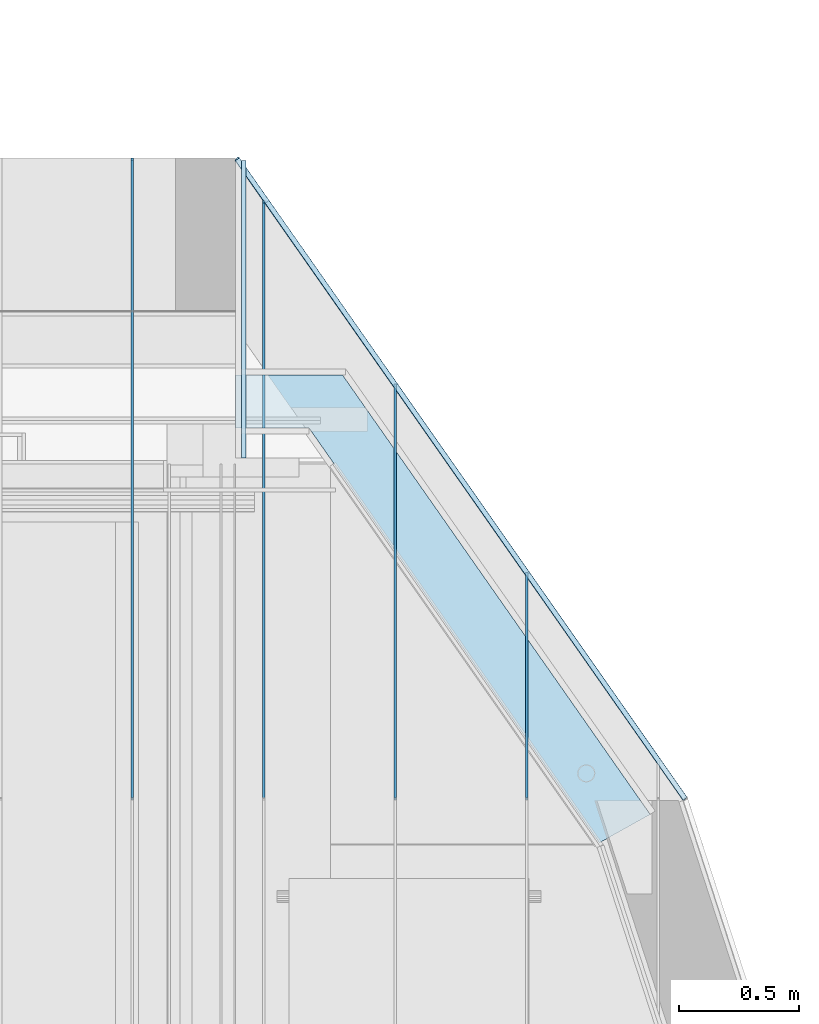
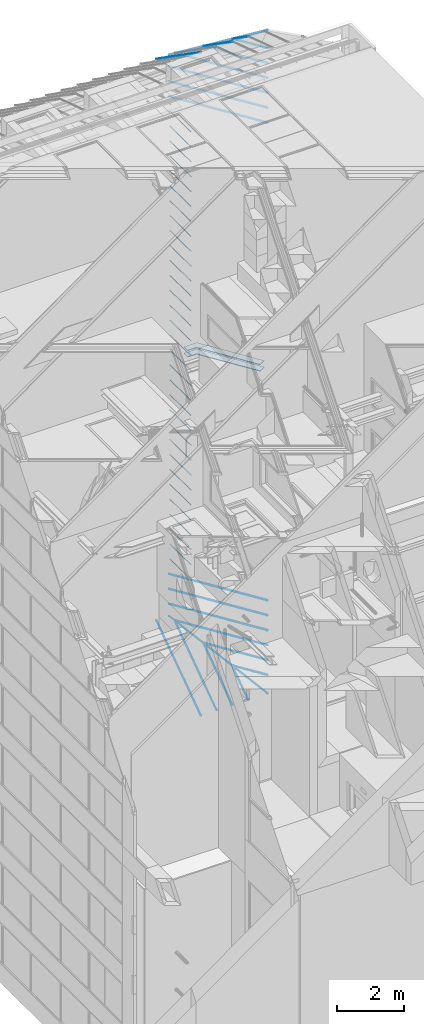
# One storey, part 298 of 583: 54 slabs.
"""IFC2X3 building model written with IfcOpenShell, lengths in metres."""

import ifcopenshell
import ifcopenshell.guid

model = None  # the IFC model being written
_history = None  # IfcOwnerHistory: only IFC2X3 demands one
_inside = {}  # id of a spatial element -> (the spatial element, [elements in it])
_under = {}  # id of a project, library or spatial element -> (it, [spatial elements below it])
_declared = {}  # id of a project -> (the project, [libraries it declares])
_typed = {}  # id of a type object -> (the type object, [elements of that type])
_made_of = {}  # id of a material, layer set ... -> (it, [elements and type objects made of it])


def new_model(schema):
    """Start an empty IFC model of exactly this schema.

    Asked for "IFC4X3", IfcOpenShell would pick the latest addendum, in which some entities
    have other attributes; the version numbers below select the first issue.
    IFC2X3 requires an IfcOwnerHistory on every rooted entity: one is made here for all.
    """
    global model, _history
    if schema == "IFC4X3":
        model = ifcopenshell.file(schema_version=(4, 3, 0, 0))
    else:
        model = ifcopenshell.file(schema=schema)
    _inside.clear()
    _under.clear()
    _declared.clear()
    _typed.clear()
    _made_of.clear()
    _history = None
    if model.schema == "IFC2X3":
        org = make("IfcOrganization", Name="unknown")
        user = make(
            "IfcPersonAndOrganization",
            ThePerson=make("IfcPerson", FamilyName="unknown"),
            TheOrganization=org,
        )
        app = make(
            "IfcApplication",
            ApplicationDeveloper=org,
            Version="unknown",
            ApplicationFullName="unknown",
            ApplicationIdentifier="unknown",
        )
        _history = make(
            "IfcOwnerHistory",
            OwningUser=user,
            OwningApplication=app,
            ChangeAction="ADDED",
            CreationDate=0,
        )
    return model


def make(cls, **values):
    """One entity of the class cls with the attributes given. An attribute that is None is left unset."""
    return model.create_entity(
        cls, **{name: value for name, value in values.items() if value is not None}
    )


def entity(cls, *values):
    """Any entity or typed value of the class cls, its attributes in the order of the schema. None: left unset."""
    e = model.create_entity(cls)
    for i, value in enumerate(values):
        if value is not None:
            e[i] = value
    return e


def rooted(cls, **values):
    """An entity with a GlobalId (a new one), such as an element, a storey or a relation."""
    return make(cls, GlobalId=ifcopenshell.guid.new(), OwnerHistory=_history, **values)


def si_unit(unit_type, name, prefix=None):
    """IfcSIUnit, for example si_unit("LENGTHUNIT", "METRE", prefix="MILLI")."""
    return make("IfcSIUnit", UnitType=unit_type, Prefix=prefix, Name=name)


def converted_unit(unit_type, name, factor, base, dimensions=None, offset=None):
    """IfcConversionBasedUnit, such as the inch: factor (a typed value) times the base unit."""
    return make(
        "IfcConversionBasedUnit"
        if offset is None
        else "IfcConversionBasedUnitWithOffset",
        ConversionOffset=offset,
        Dimensions=None
        if dimensions is None
        else entity("IfcDimensionalExponents", *dimensions),
        UnitType=unit_type,
        Name=name,
        ConversionFactor=make(
            "IfcMeasureWithUnit", ValueComponent=factor, UnitComponent=base
        ),
    )


def derived_unit(unit_type, elements):
    """IfcDerivedUnit: a product of units, each with its exponent."""
    return make(
        "IfcDerivedUnit",
        Elements=[
            make("IfcDerivedUnitElement", Unit=unit, Exponent=power)
            for unit, power in elements
        ],
        UnitType=unit_type,
    )


def money_unit(currency):
    """IfcMonetaryUnit."""
    return make("IfcMonetaryUnit", Currency=currency)


def assignment(units):
    """IfcUnitAssignment: the units of a project."""
    return None if units is None else make("IfcUnitAssignment", Units=units)


def point(xyz):
    """IfcCartesianPoint."""
    return None if xyz is None else make("IfcCartesianPoint", Coordinates=xyz)


def direction(xyz):
    """IfcDirection."""
    return None if xyz is None else make("IfcDirection", DirectionRatios=xyz)


def frame(location, z_axis=None, x_axis=None):
    """IfcAxis2Placement3D, a coordinate frame: its origin and axes. An axis left out is left unset."""
    return make(
        "IfcAxis2Placement3D",
        Location=point(location),
        Axis=direction(z_axis),
        RefDirection=direction(x_axis),
    )


def origin_with_axes():
    """The frame at (0, 0, 0) with the z axis (0, 0, 1) and the x axis (1, 0, 0) written out."""
    return frame((0.0, 0.0, 0.0), z_axis=(0.0, 0.0, 1.0), x_axis=(1.0, 0.0, 0.0))


def place(relative_to, where):
    """IfcLocalPlacement: puts the frame where relative to a parent placement (None: the world)."""
    return make(
        "IfcLocalPlacement", PlacementRelTo=relative_to, RelativePlacement=where
    )


def context(
    kind, dimensions, precision=None, world=None, true_north=None, identifier=None
):
    """IfcGeometricRepresentationContext, for example the 3D "Model" context."""
    return make(
        "IfcGeometricRepresentationContext",
        ContextIdentifier=identifier,
        ContextType=kind,
        CoordinateSpaceDimension=dimensions,
        Precision=precision,
        WorldCoordinateSystem=world,
        TrueNorth=true_north,
    )


def subcontext(parent, identifier, kind, view, scale=None):
    """IfcGeometricRepresentationSubContext, for example "Body" below "Model"."""
    return make(
        "IfcGeometricRepresentationSubContext",
        ContextIdentifier=identifier,
        ContextType=kind,
        ParentContext=parent,
        TargetScale=scale,
        TargetView=view,
    )


def project(units=None, contexts=None):
    """IfcProject with its units and contexts."""
    return rooted(
        "IfcProject",
        Name="project",
        RepresentationContexts=contexts,
        UnitsInContext=assignment(units),
    )


def spatial(cls, under=None, at=None, **own):
    """A site, building, storey or space (cls), placed at a placement, below another one or the project."""
    s = rooted(cls, ObjectPlacement=at, **own)
    if under is not None:
        _under.setdefault(under.id(), (under, []))[1].append(s)
    return s


def faces_of(points, faces, orient=None, outer=None):
    """IfcFace entities. A face is a list of loops; a loop is a list of indices into points, from 0.

    orient and outer hold one flag for each loop. By default every Orientation is true, the
    first loop of a face is its IfcFaceOuterBound and the others are IfcFaceBound.
    """
    made = []
    for i, loops in enumerate(faces):
        bounds = []
        for j, loop in enumerate(loops):
            is_outer = j == 0 if outer is None else outer[i][j]
            bounds.append(
                make(
                    "IfcFaceOuterBound" if is_outer else "IfcFaceBound",
                    Bound=make("IfcPolyLoop", Polygon=[points[k] for k in loop]),
                    Orientation=True if orient is None else orient[i][j],
                )
            )
        made.append(make("IfcFace", Bounds=bounds))
    return made


def faceted_brep(points, faces, orient=None, outer=None, voids=None):
    """IfcFacetedBrep: a solid bounded by flat faces; with voids (closed shells), ...WithVoids."""
    shared = [point(p) for p in points]
    hull = make("IfcClosedShell", CfsFaces=faces_of(shared, faces, orient, outer))
    if voids is None:
        return make("IfcFacetedBrep", Outer=hull)
    return make(
        "IfcFacetedBrepWithVoids",
        Outer=hull,
        Voids=[
            make(cls, CfsFaces=faces_of(shared, fs, o, b)) for cls, fs, o, b in voids
        ],
    )


def shape(context_of_items, identifier, shape_type, items):
    """IfcShapeRepresentation: the items that make up one representation, for example the "Body"."""
    return make(
        "IfcShapeRepresentation",
        ContextOfItems=context_of_items,
        RepresentationIdentifier=identifier,
        RepresentationType=shape_type,
        Items=items,
    )


def material(Name=None, Category=None):
    """IfcMaterial."""
    return make("IfcMaterial", Name=Name, Category=Category)


def made_of(thing, what):
    """Note that an element or type object is made of a material, layer set ...; save() writes the relation."""
    if what is not None:
        _made_of.setdefault(what.id(), (what, []))[1].append(thing)
    return thing


def type_object(cls, material=None, **own):
    """A type object (cls), such as IfcWallType, which elements share."""
    return made_of(rooted(cls, **own), material)


def element(
    cls,
    number,
    at=None,
    inside=None,
    cuts=None,
    type_object=None,
    material=None,
    context=None,
    identifier="Body",
    shape_type=None,
    held_by="IfcProductDefinitionShape",
    body=None,
    shapes=None,
    **own,
):
    """One element of the class cls, such as IfcWall. Its Tag is "e" and its number.

    at: its placement. inside: the storey or other place that contains it. cuts: it is an
    opening in that element (IfcRelVoidsElement). A single representation is given by context,
    identifier, shape_type and body (its items); several are given by shapes. held_by: the class
    of the entity that holds the representations. save() writes the other relations.
    """
    e = rooted(cls, Tag="e%d" % number, ObjectPlacement=at, **own)
    if body is not None:
        shapes = [shape(context, identifier, shape_type, body)]
    if shapes is not None:
        e.Representation = make(held_by, Representations=shapes)
    if inside is not None:
        _inside.setdefault(inside.id(), (inside, []))[1].append(e)
    if cuts is not None:
        rooted(
            "IfcRelVoidsElement", RelatingBuildingElement=cuts, RelatedOpeningElement=e
        )
    if type_object is not None:
        _typed.setdefault(type_object.id(), (type_object, []))[1].append(e)
    return made_of(e, material)


def aggregate(whole, parts):
    """IfcRelAggregates: a whole, such as a stair, and the parts it consists of."""
    return rooted("IfcRelAggregates", RelatingObject=whole, RelatedObjects=parts)


def save(model, path):
    """Write the relations noted so far, then the file.

    IfcRelAggregates (storeys below a building ...), IfcRelContainedInSpatialStructure (elements
    in a storey), IfcRelDefinesByType, IfcRelAssociatesMaterial and IfcRelDeclares: one each for
    every whole, place, type object, material and project.
    """
    for whole, parts in _under.values():
        aggregate(whole, parts)
    for where, things in _inside.values():
        rooted(
            "IfcRelContainedInSpatialStructure",
            RelatedElements=things,
            RelatingStructure=where,
        )
    for kind, things in _typed.values():
        rooted("IfcRelDefinesByType", RelatedObjects=things, RelatingType=kind)
    for what, things in _made_of.values():
        rooted("IfcRelAssociatesMaterial", RelatedObjects=things, RelatingMaterial=what)
    for by, libraries in _declared.values():
        rooted("IfcRelDeclares", RelatingContext=by, RelatedDefinitions=libraries)
    model.write(path)


model = new_model("IFC2X3")

# Units and contexts
model_context = context("Model", 3, precision=1e-05, world=origin_with_axes(), true_north=direction((0.0, 1.0)))
body_context = subcontext(model_context, "Body", "Model", "MODEL_VIEW", scale=1.0)
ifc_project = project(units=[si_unit("LENGTHUNIT", "METRE"), si_unit("AREAUNIT", "SQUARE_METRE"), si_unit("VOLUMEUNIT", "CUBIC_METRE"), si_unit("ABSORBEDDOSEUNIT", "GRAY"), si_unit("AMOUNTOFSUBSTANCEUNIT", "MOLE"), si_unit("DOSEEQUIVALENTUNIT", "SIEVERT"), si_unit("ELECTRICCAPACITANCEUNIT", "FARAD"), si_unit("ELECTRICCHARGEUNIT", "COULOMB"), si_unit("ELECTRICCONDUCTANCEUNIT", "SIEMENS"), si_unit("ELECTRICCURRENTUNIT", "AMPERE"), si_unit("ELECTRICRESISTANCEUNIT", "OHM"), si_unit("ELECTRICVOLTAGEUNIT", "VOLT"), si_unit("ENERGYUNIT", "JOULE"), si_unit("FORCEUNIT", "NEWTON"), si_unit("FREQUENCYUNIT", "HERTZ"), si_unit("ILLUMINANCEUNIT", "LUX"), si_unit("INDUCTANCEUNIT", "HENRY"), si_unit("LUMINOUSFLUXUNIT", "LUMEN"), si_unit("LUMINOUSINTENSITYUNIT", "CANDELA"), si_unit("MAGNETICFLUXDENSITYUNIT", "TESLA"), si_unit("MAGNETICFLUXUNIT", "WEBER"), si_unit("MASSUNIT", "GRAM"), converted_unit("PLANEANGLEUNIT", "degree", entity("IfcReal", 0.0174532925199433), si_unit("PLANEANGLEUNIT", "RADIAN"), dimensions=[0, 0, 0, 0, 0, 0, 0]), si_unit("POWERUNIT", "WATT"), si_unit("PRESSUREUNIT", "PASCAL"), si_unit("RADIOACTIVITYUNIT", "BECQUEREL"), si_unit("SOLIDANGLEUNIT", "STERADIAN"), si_unit("THERMODYNAMICTEMPERATUREUNIT", "KELVIN"), si_unit("TIMEUNIT", "SECOND"), derived_unit("ACCELERATIONUNIT", [(si_unit("LENGTHUNIT", "METRE"), 1), (si_unit("TIMEUNIT", "SECOND"), -2)]), derived_unit("ANGULARVELOCITYUNIT", [(converted_unit("PLANEANGLEUNIT", "degree", entity("IfcReal", 0.0174532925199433), si_unit("PLANEANGLEUNIT", "RADIAN"), dimensions=[0, 0, 0, 0, 0, 0, 0]), 1), (si_unit("TIMEUNIT", "SECOND"), -1)]), derived_unit("CURVATUREUNIT", [(converted_unit("PLANEANGLEUNIT", "degree", entity("IfcReal", 0.0174532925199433), si_unit("PLANEANGLEUNIT", "RADIAN"), dimensions=[0, 0, 0, 0, 0, 0, 0]), 1), (si_unit("LENGTHUNIT", "METRE"), -1)]), derived_unit("DYNAMICVISCOSITYUNIT", [(si_unit("PRESSUREUNIT", "PASCAL"), 1), (si_unit("TIMEUNIT", "SECOND"), 1)]), derived_unit("HEATFLUXDENSITYUNIT", [(si_unit("POWERUNIT", "WATT"), 1), (si_unit("LENGTHUNIT", "METRE"), -2)]), derived_unit("HEATINGVALUEUNIT", [(si_unit("ENERGYUNIT", "JOULE"), 1), (si_unit("MASSUNIT", "GRAM"), -1)]), derived_unit("INTEGERCOUNTRATEUNIT", [(si_unit("TIMEUNIT", "SECOND"), -1)]), derived_unit("IONCONCENTRATIONUNIT", [(si_unit("MASSUNIT", "GRAM"), 1), (si_unit("VOLUMEUNIT", "CUBIC_METRE"), -1)]), derived_unit("ISOTHERMALMOISTURECAPACITYUNIT", [(si_unit("VOLUMEUNIT", "CUBIC_METRE"), 1), (si_unit("MASSUNIT", "GRAM"), -1)]), derived_unit("KINEMATICVISCOSITYUNIT", [(si_unit("AREAUNIT", "SQUARE_METRE"), 1), (si_unit("TIMEUNIT", "SECOND"), -1)]), derived_unit("LINEARFORCEUNIT", [(si_unit("FORCEUNIT", "NEWTON"), 1), (si_unit("LENGTHUNIT", "METRE"), -1)]), derived_unit("LINEARMOMENTUNIT", [(si_unit("FORCEUNIT", "NEWTON"), 1), (si_unit("LENGTHUNIT", "METRE"), -1)]), derived_unit("LINEARSTIFFNESSUNIT", [(si_unit("FORCEUNIT", "NEWTON"), 1), (si_unit("LENGTHUNIT", "METRE"), -1)]), derived_unit("LINEARVELOCITYUNIT", [(si_unit("LENGTHUNIT", "METRE"), 1), (si_unit("TIMEUNIT", "SECOND"), -1)]), derived_unit("LUMINOUSINTENSITYDISTRIBUTIONUNIT", [(si_unit("LUMINOUSINTENSITYUNIT", "CANDELA"), 1), (si_unit("LUMINOUSFLUXUNIT", "LUMEN"), -1)]), derived_unit("MASSDENSITYUNIT", [(si_unit("MASSUNIT", "GRAM"), 1), (si_unit("VOLUMEUNIT", "CUBIC_METRE"), -1)]), derived_unit("MASSFLOWRATEUNIT", [(si_unit("MASSUNIT", "GRAM"), 1), (si_unit("TIMEUNIT", "SECOND"), -1)]), derived_unit("MASSPERLENGTHUNIT", [(si_unit("MASSUNIT", "GRAM"), 1), (si_unit("LENGTHUNIT", "METRE"), -1)]), derived_unit("MODULUSOFELASTICITYUNIT", [(si_unit("FORCEUNIT", "NEWTON"), 1), (si_unit("AREAUNIT", "SQUARE_METRE"), -1)]), derived_unit("MODULUSOFLINEARSUBGRADEREACTIONUNIT", [(si_unit("FORCEUNIT", "NEWTON"), 1), (si_unit("LENGTHUNIT", "METRE"), -2)]), derived_unit("MODULUSOFROTATIONALSUBGRADEREACTIONUNIT", [(si_unit("FORCEUNIT", "NEWTON"), 1), (si_unit("LENGTHUNIT", "METRE"), 1)]), derived_unit("MODULUSOFSUBGRADEREACTIONUNIT", [(si_unit("FORCEUNIT", "NEWTON"), 1), (si_unit("VOLUMEUNIT", "CUBIC_METRE"), -1)]), derived_unit("MOISTUREDIFFUSIVITYUNIT", [(si_unit("VOLUMEUNIT", "CUBIC_METRE"), 1), (si_unit("TIMEUNIT", "SECOND"), -1)]), derived_unit("MOLECULARWEIGHTUNIT", [(si_unit("MASSUNIT", "GRAM"), 1), (si_unit("AMOUNTOFSUBSTANCEUNIT", "MOLE"), -1)]), derived_unit("PLANARFORCEUNIT", [(si_unit("FORCEUNIT", "NEWTON"), 1), (si_unit("LENGTHUNIT", "METRE"), -2)]), derived_unit("ROTATIONALFREQUENCYUNIT", [(si_unit("TIMEUNIT", "SECOND"), -1)]), derived_unit("ROTATIONALMASSUNIT", [(si_unit("MASSUNIT", "GRAM"), 1), (si_unit("LENGTHUNIT", "METRE"), 2)]), derived_unit("ROTATIONALSTIFFNESSUNIT", [(si_unit("FORCEUNIT", "NEWTON"), 1), (si_unit("LENGTHUNIT", "METRE"), 1), (converted_unit("PLANEANGLEUNIT", "degree", entity("IfcReal", 0.0174532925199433), si_unit("PLANEANGLEUNIT", "RADIAN"), dimensions=[0, 0, 0, 0, 0, 0, 0]), -1)]), derived_unit("SECTIONAREAINTEGRALUNIT", [(si_unit("LENGTHUNIT", "METRE"), 5)]), derived_unit("SECTIONMODULUSUNIT", [(si_unit("LENGTHUNIT", "METRE"), 3)]), derived_unit("SHEARMODULUSUNIT", [(si_unit("FORCEUNIT", "NEWTON"), 1), (si_unit("AREAUNIT", "SQUARE_METRE"), -1)]), derived_unit("SOUNDPOWERUNIT", [(si_unit("ENERGYUNIT", "JOULE"), 1), (si_unit("TIMEUNIT", "SECOND"), -1)]), derived_unit("SPECIFICHEATCAPACITYUNIT", [(si_unit("FORCEUNIT", "NEWTON"), 1), (si_unit("MASSUNIT", "GRAM"), -1), (si_unit("THERMODYNAMICTEMPERATUREUNIT", "KELVIN"), -1)]), derived_unit("TEMPERATUREGRADIENTUNIT", [(si_unit("THERMODYNAMICTEMPERATUREUNIT", "KELVIN"), 1), (si_unit("LENGTHUNIT", "METRE"), -1)]), derived_unit("THERMALADMITTANCEUNIT", [(si_unit("POWERUNIT", "WATT"), 1), (si_unit("AREAUNIT", "SQUARE_METRE"), -1), (si_unit("THERMODYNAMICTEMPERATUREUNIT", "KELVIN"), -1)]), derived_unit("THERMALCONDUCTANCEUNIT", [(si_unit("POWERUNIT", "WATT"), 1), (si_unit("LENGTHUNIT", "METRE"), -1), (si_unit("THERMODYNAMICTEMPERATUREUNIT", "KELVIN"), -1)]), derived_unit("THERMALEXPANSIONCOEFFICIENTUNIT", [(si_unit("THERMODYNAMICTEMPERATUREUNIT", "KELVIN"), -1)]), derived_unit("THERMALRESISTANCEUNIT", [(si_unit("AREAUNIT", "SQUARE_METRE"), 1), (si_unit("POWERUNIT", "WATT"), -1)]), derived_unit("THERMALTRANSMITTANCEUNIT", [(si_unit("POWERUNIT", "WATT"), 1), (si_unit("AREAUNIT", "SQUARE_METRE"), -1), (si_unit("THERMODYNAMICTEMPERATUREUNIT", "KELVIN"), -1)]), derived_unit("TORQUEUNIT", [(si_unit("FORCEUNIT", "NEWTON"), 1), (si_unit("LENGTHUNIT", "METRE"), 1)]), derived_unit("VAPORPERMEABILITYUNIT", [(si_unit("MASSUNIT", "GRAM"), 1), (si_unit("TIMEUNIT", "SECOND"), -1)]), derived_unit("VOLUMETRICFLOWRATEUNIT", [(si_unit("VOLUMEUNIT", "CUBIC_METRE"), 1), (si_unit("TIMEUNIT", "SECOND"), -1)]), derived_unit("WARPINGCONSTANTUNIT", [(si_unit("LENGTHUNIT", "METRE"), 6)]), derived_unit("WARPINGMOMENTUNIT", [(si_unit("FORCEUNIT", "NEWTON"), 1), (si_unit("LENGTHUNIT", "METRE"), 2)]), money_unit("GBP")], contexts=[model_context])

# Site, building, storey
site_placement = place(None, origin_with_axes())
site = spatial("IfcSite", under=ifc_project, at=site_placement, Name="Site", CompositionType="ELEMENT")
building_placement = place(site_placement, origin_with_axes())
building = spatial("IfcBuilding", under=site, at=building_placement, Name="Building01", CompositionType="ELEMENT")
storey_placement = place(building_placement, frame((0.0, 0.0, 20.78), z_axis=(0.0, 0.0, 1.0), x_axis=(1.0, 0.0, 0.0)))
storey = spatial("IfcBuildingStorey", under=building, at=storey_placement, Name="RL", CompositionType="ELEMENT", Elevation=20.78)

# Slabs
ifc_material = material(Name="A_BSUK_Roofs")
slab_type = type_object("IfcSlabType", Name="A-FloorsSlabs A_BSUK_Slabs", PredefinedType="FLOOR")
placement = place(storey_placement, frame((0.0, 0.0, -20.78), z_axis=(0.0, 0.0, 1.0), x_axis=(1.0, 0.0, 0.0)))
element("IfcSlab", 1, at=placement, inside=storey, type_object=slab_type, material=ifc_material, Name="A-FloorsSlabs A_BSUK_Slabs", ObjectType="CompoundSlabLeaf", context=body_context, shape_type="Brep", body=[
    faceted_brep([(11.699939, 20.5522, 13.60455), (11.699939, 20.5522, 13.62955), (12.146285, 20.5522, 13.62955), (12.146285, 20.5522, 13.60455), (11.699939, 20.33, 13.60455), (11.699939, 20.33, 13.62955), (12.007176, 20.33, 13.60455), (12.007176, 20.33, 13.62955), (13.216328, 18.602594, 13.60455), (13.216328, 18.602594, 13.62955), (13.428465, 18.721057, 13.60455), (13.428465, 18.721057, 13.62955)], [[[0, 1, 2, 3]], [[4, 5, 1, 0]], [[6, 7, 5, 4]], [[8, 9, 7, 6]], [[10, 11, 9, 8]], [[3, 2, 11, 10]], [[1, 5, 7, 9, 11, 2]], [[3, 10, 8, 6, 4, 0]]]),
])
element("IfcSlab", 2, at=placement, inside=storey, type_object=slab_type, material=ifc_material, Name="A-FloorsSlabs A_BSUK_Slabs", ObjectType="CompoundSlabLeaf", context=body_context, shape_type="Brep", body=[
    faceted_brep([(12.146285, 20.5522, 13.39545), (12.146285, 20.5522, 13.37045), (11.699939, 20.5522, 13.37045), (11.699939, 20.5522, 13.39545), (13.428465, 18.721057, 13.39545), (13.428465, 18.721057, 13.37045), (13.216328, 18.602594, 13.39545), (13.216328, 18.602594, 13.37045), (12.007176, 20.33, 13.39545), (12.007176, 20.33, 13.37045), (11.699939, 20.33, 13.39545), (11.699939, 20.33, 13.37045)], [[[0, 1, 2, 3]], [[4, 5, 1, 0]], [[6, 7, 5, 4]], [[8, 9, 7, 6]], [[10, 11, 9, 8]], [[3, 2, 11, 10]], [[1, 5, 7, 9, 11, 2]], [[3, 10, 8, 6, 4, 0]]]),
])
for number, where, z_axis, x_axis, name in (
    (3, (11.725061, 20.205, -9.464976), (0.0, 1.0, 0.0), (0.0, 0.0, -1.0), "A-FloorsSlabs A_BSUK_Slabs"),
    (4, (11.725061, 20.205, -10.012476), (0.0, 1.0, 0.0), (0.0, 0.0, -1.0), "A-FloorsSlabs A_BSUK_Slabs"),
    (5, (11.725061, 20.205, -10.559976), (0.0, 1.0, 0.0), (0.0, 0.0, -1.0), "A-FloorsSlabs A_BSUK_Slabs"),
    (6, (11.725061, 20.205, -11.107476), (0.0, 1.0, 0.0), (0.0, 0.0, -1.0), "A-FloorsSlabs A_BSUK_Slabs"),
    (7, (11.725061, 20.205, -11.654976), (0.0, 1.0, 0.0), (0.0, 0.0, -1.0), "A-FloorsSlabs A_BSUK_Slabs"),
    (8, (11.725061, 20.205, -12.202476), (0.0, 1.0, 0.0), (0.0, 0.0, -1.0), "A-FloorsSlabs A_BSUK_Slabs"),
    (9, (11.725061, 20.205, -12.749976), (0.0, 1.0, 0.0), (0.0, 0.0, -1.0), "A-FloorsSlabs A_BSUK_Slabs"),
    (10, (11.725061, 20.205, -13.297476), (0.0, 1.0, 0.0), (0.0, 0.0, -1.0), "A-FloorsSlabs A_BSUK_Slabs"),
    (11, (11.725061, 20.205, -13.844976), (0.0, 1.0, 0.0), (0.0, 0.0, -1.0), "A-FloorsSlabs A_BSUK_Slabs"),
    (12, (11.725061, 20.205, -14.392476), (0.0, 1.0, 0.0), (0.0, 0.0, -1.0), "A-FloorsSlabs A_BSUK_Slabs"),
    (13, (11.725061, 20.205, -14.939976), (0.0, 1.0, 0.0), (0.0, 0.0, -1.0), "A-FloorsSlabs A_BSUK_Slabs"),
    (14, (11.725061, 20.205, -15.487476), (0.0, 1.0, 0.0), (0.0, 0.0, -1.0), "A-FloorsSlabs A_BSUK_Slabs"),
):
    element("IfcSlab", number, at=place(storey_placement, frame(where, z_axis=z_axis, x_axis=x_axis)), inside=storey, type_object=slab_type, material=ifc_material, Name=name, ObjectType="A-FloorsSlabs A_BSUK_Slabs", context=body_context, shape_type="Brep", body=[
        faceted_brep([(0.0, 0.0, 0.0), (0.0, -0.02, 0.0), (0.0, -0.02, 1.239928), (0.0, 0.0, 1.239928), (0.01, 0.0, 0.0), (0.01, -0.02, 0.0), (0.01, 0.0, 1.239928), (0.01, -0.02, 1.239928)], [[[0, 1, 2, 3]], [[4, 5, 1, 0]], [[6, 7, 5, 4]], [[3, 2, 7, 6]], [[1, 5, 7, 2]], [[3, 6, 4, 0]]]),
    ])
for number, where, z_axis, x_axis, name in (
    (15, (13.56574, 18.780461, -16.034976), (0.0, 1.0, 0.0), (0.0, 0.0, -1.0), "A-FloorsSlabs A_BSUK_Slabs"),
    (16, (13.56574, 18.780461, -16.582476), (0.0, 1.0, 0.0), (0.0, 0.0, -1.0), "A-FloorsSlabs A_BSUK_Slabs"),
):
    element("IfcSlab", number, at=place(storey_placement, frame(where, z_axis=z_axis, x_axis=x_axis)), inside=storey, type_object=slab_type, material=ifc_material, Name=name, ObjectType="A-FloorsSlabs A_BSUK_Slabs", context=body_context, shape_type="Brep", body=[
        faceted_brep([(0.0, 0.0, 0.0), (0.0, -0.016383, 0.011472), (0.0, 1.849297, 2.675938), (0.0, 1.86568, 2.664467), (0.01, 0.0, 0.0), (0.01, -0.016383, 0.011472), (0.01, 1.86568, 2.664467), (0.01, 1.849297, 2.675938)], [[[0, 1, 2, 3]], [[4, 5, 1, 0]], [[6, 7, 5, 4]], [[3, 2, 7, 6]], [[1, 5, 7, 2]], [[3, 6, 4, 0]]]),
    ])
for number, where, z_axis, x_axis, name in (
    (17, (11.725061, 20.205, -6.737476), (0.0, 1.0, 0.0), (0.0, 0.0, -1.0), "A-FloorsSlabs A_BSUK_Slabs"),
    (18, (11.725061, 20.205, -6.189976), (0.0, 1.0, 0.0), (0.0, 0.0, -1.0), "A-FloorsSlabs A_BSUK_Slabs"),
    (19, (11.725061, 20.205, -5.642476), (0.0, 1.0, 0.0), (0.0, 0.0, -1.0), "A-FloorsSlabs A_BSUK_Slabs"),
    (20, (11.725061, 20.205, -5.094976), (0.0, 1.0, 0.0), (0.0, 0.0, -1.0), "A-FloorsSlabs A_BSUK_Slabs"),
    (21, (11.725061, 20.205, -4.547476), (0.0, 1.0, 0.0), (0.0, 0.0, -1.0), "A-FloorsSlabs A_BSUK_Slabs"),
    (22, (11.725061, 20.205, -3.999976), (0.0, 1.0, 0.0), (0.0, 0.0, -1.0), "A-FloorsSlabs A_BSUK_Slabs"),
    (23, (11.725061, 20.205, -3.452476), (0.0, 1.0, 0.0), (0.0, 0.0, -1.0), "A-FloorsSlabs A_BSUK_Slabs"),
    (24, (11.725061, 20.205, -2.904976), (0.0, 1.0, 0.0), (0.0, 0.0, -1.0), "A-FloorsSlabs A_BSUK_Slabs"),
    (25, (11.725061, 20.205, -2.357476), (0.0, 1.0, 0.0), (0.0, 0.0, -1.0), "A-FloorsSlabs A_BSUK_Slabs"),
    (26, (11.725061, 20.205, -1.809976), (0.0, 1.0, 0.0), (0.0, 0.0, -1.0), "A-FloorsSlabs A_BSUK_Slabs"),
    (27, (11.725061, 20.205, -1.262476), (0.0, 1.0, 0.0), (0.0, 0.0, -1.0), "A-FloorsSlabs A_BSUK_Slabs"),
    (28, (11.725061, 20.205, -0.714976), (0.0, 1.0, 0.0), (0.0, 0.0, -1.0), "A-FloorsSlabs A_BSUK_Slabs"),
    (29, (11.725061, 20.205, -0.167476), (0.0, 1.0, 0.0), (0.0, 0.0, -1.0), "A-FloorsSlabs A_BSUK_Slabs"),
    (30, (11.725061, 20.205, 0.380024), (0.0, 1.0, 0.0), (0.0, 0.0, -1.0), "A-FloorsSlabs A_BSUK_Slabs"),
    (31, (11.725061, 20.205, 0.927524), (0.0, 1.0, 0.0), (0.0, 0.0, -1.0), "A-FloorsSlabs A_BSUK_Slabs"),
):
    element("IfcSlab", number, at=place(storey_placement, frame(where, z_axis=z_axis, x_axis=x_axis)), inside=storey, type_object=slab_type, material=ifc_material, Name=name, ObjectType="A-FloorsSlabs A_BSUK_Slabs", context=body_context, shape_type="Brep", body=[
        faceted_brep([(0.0, 0.0, 1.239928), (0.0, -0.02, 1.239928), (0.0, -0.02, 0.0), (0.0, 0.0, 0.0), (-0.01, -0.02, 0.0), (-0.01, 0.0, 0.0), (-0.01, -0.02, 1.239928), (-0.01, 0.0, 1.239928)], [[[0, 1, 2, 3]], [[3, 2, 4, 5]], [[5, 4, 6, 7]], [[7, 6, 1, 0]], [[1, 6, 4, 2]], [[3, 5, 7, 0]]]),
    ])
for number, where, z_axis, x_axis, name in (
    (32, (13.56574, 18.780461, 1.475024), (0.0, 1.0, 0.0), (0.0, 0.0, -1.0), "A-FloorsSlabs A_BSUK_Slabs"),
    (33, (13.56574, 18.780461, 2.022524), (0.0, 1.0, 0.0), (0.0, 0.0, -1.0), "A-FloorsSlabs A_BSUK_Slabs"),
    (34, (13.56574, 18.780461, 2.570024), (0.0, 1.0, 0.0), (0.0, 0.0, -1.0), "A-FloorsSlabs A_BSUK_Slabs"),
):
    element("IfcSlab", number, at=place(storey_placement, frame(where, z_axis=z_axis, x_axis=x_axis)), inside=storey, type_object=slab_type, material=ifc_material, Name=name, ObjectType="A-FloorsSlabs A_BSUK_Slabs", context=body_context, shape_type="Brep", body=[
        faceted_brep([(0.0, 1.86568, 2.664467), (0.0, 1.849297, 2.675938), (0.0, -0.016383, 0.011472), (0.0, 0.0, 0.0), (-0.01, -0.016383, 0.011472), (-0.01, 0.0, 0.0), (-0.01, 1.849297, 2.675938), (-0.01, 1.86568, 2.664467)], [[[0, 1, 2, 3]], [[3, 2, 4, 5]], [[5, 4, 6, 7]], [[7, 6, 1, 0]], [[1, 6, 4, 2]], [[3, 5, 7, 0]]]),
    ])
slab_3_placement = place(storey_placement, frame((13.56574, 18.780461, 3.117524), z_axis=(0.0, 1.0, 0.0), x_axis=(0.0, 0.0, -1.0)))
element("IfcSlab", 35, at=slab_3_placement, inside=storey, type_object=slab_type, material=ifc_material, Name="A-FloorsSlabs A_BSUK_Slabs", ObjectType="A-FloorsSlabs A_BSUK_Slabs", context=body_context, shape_type="Brep", body=[
    faceted_brep([(0.0, 1.741455, 2.487055), (0.0, 1.725072, 2.498526), (0.0, -0.016383, 0.011471), (0.0, 0.0, 0.0), (-0.01, -0.016383, 0.011471), (-0.01, 0.0, 0.0), (-0.01, 1.725072, 2.498526), (-0.01, 1.741455, 2.487055)], [[[0, 1, 2, 3]], [[3, 2, 4, 5]], [[5, 4, 6, 7]], [[7, 6, 1, 0]], [[1, 6, 4, 2]], [[3, 5, 7, 0]]]),
])
slab_4_placement = place(storey_placement, frame((13.56574, 18.780461, 3.665024), z_axis=(0.0, 1.0, 0.0), x_axis=(0.0, 0.0, -1.0)))
element("IfcSlab", 36, at=slab_4_placement, inside=storey, type_object=slab_type, material=ifc_material, Name="A-FloorsSlabs A_BSUK_Slabs", ObjectType="A-FloorsSlabs A_BSUK_Slabs", context=body_context, shape_type="Brep", body=[
    faceted_brep([(0.0, 1.206296, 1.722769), (0.0, 1.190082, 1.734122), (0.0, -0.016214, 0.011353), (0.0, 0.0, 0.0), (-0.01, -0.016214, 0.011353), (-0.01, 0.0, 0.0), (-0.01, 1.190082, 1.734122), (-0.01, 1.206296, 1.722769)], [[[0, 1, 2, 3]], [[3, 2, 4, 5]], [[5, 4, 6, 7]], [[7, 6, 1, 0]], [[1, 6, 4, 2]], [[3, 5, 7, 0]]]),
])
slab_5_placement = place(storey_placement, frame((13.56574, 18.780461, 4.212524), z_axis=(0.0, 1.0, 0.0), x_axis=(0.0, 0.0, -1.0)))
element("IfcSlab", 37, at=slab_5_placement, inside=storey, type_object=slab_type, material=ifc_material, Name="A-FloorsSlabs A_BSUK_Slabs", ObjectType="A-FloorsSlabs A_BSUK_Slabs", context=body_context, shape_type="Brep", body=[
    faceted_brep([(0.0, 0.655905, 0.936729), (0.0, 0.639522, 0.948201), (0.0, -0.016383, 0.011472), (0.0, 0.0, 0.0), (-0.01, -0.016383, 0.011472), (-0.01, 0.0, 0.0), (-0.01, 0.639522, 0.948201), (-0.01, 0.655905, 0.936729)], [[[0, 1, 2, 3]], [[3, 2, 4, 5]], [[5, 4, 6, 7]], [[7, 6, 1, 0]], [[1, 6, 4, 2]], [[3, 5, 7, 0]]]),
])
for number, where, z_axis, x_axis, name in (
    (38, (11.725061, 20.205, -7.822476), (0.0, 1.0, 0.0), (0.0, 0.0, -1.0), "A-FloorsSlabs A_BSUK_Slabs"),
    (39, (11.725061, 20.205, -8.369976), (0.0, 1.0, 0.0), (0.0, 0.0, -1.0), "A-FloorsSlabs A_BSUK_Slabs"),
    (40, (11.725061, 20.205, -8.917476), (0.0, 1.0, 0.0), (0.0, 0.0, -1.0), "A-FloorsSlabs A_BSUK_Slabs"),
):
    element("IfcSlab", number, at=place(storey_placement, frame(where, z_axis=z_axis, x_axis=x_axis)), inside=storey, type_object=slab_type, material=ifc_material, Name=name, ObjectType="A-FloorsSlabs A_BSUK_Slabs", context=body_context, shape_type="Brep", body=[
        faceted_brep([(0.0, 0.0, 0.0), (0.0, -0.02, 0.0), (0.0, -0.02, 1.239928), (0.0, 0.0, 1.239928), (0.01, 0.0, 0.0), (0.01, -0.02, 0.0), (0.01, 0.0, 1.239928), (0.01, -0.02, 1.239928)], [[[0, 1, 2, 3]], [[4, 5, 1, 0]], [[6, 7, 5, 4]], [[3, 2, 7, 6]], [[1, 5, 7, 2]], [[3, 6, 4, 0]]]),
    ])
slab_6_placement = place(storey_placement, frame((13.56574, 18.780461, -17.129976), z_axis=(0.0, 1.0, 0.0), x_axis=(0.0, 0.0, -1.0)))
element("IfcSlab", 41, at=slab_6_placement, inside=storey, type_object=slab_type, material=ifc_material, Name="A-FloorsSlabs A_BSUK_Slabs", ObjectType="A-FloorsSlabs A_BSUK_Slabs", context=body_context, shape_type="Brep", body=[
    faceted_brep([(0.0, 0.0, 0.0), (0.0, -0.016383, 0.011472), (0.0, 1.849297, 2.675938), (0.0, 1.86568, 2.664467), (0.01, 0.0, 0.0), (0.01, -0.016383, 0.011472), (0.01, 1.86568, 2.664467), (0.01, 1.849297, 2.675938)], [[[0, 1, 2, 3]], [[4, 5, 1, 0]], [[6, 7, 5, 4]], [[3, 2, 7, 6]], [[1, 5, 7, 2]], [[3, 6, 4, 0]]]),
])
slab_7_placement = place(storey_placement, frame((13.56574, 18.780461, -17.677476), z_axis=(0.0, 1.0, 0.0), x_axis=(0.0, 0.0, -1.0)))
element("IfcSlab", 42, at=slab_7_placement, inside=storey, type_object=slab_type, material=ifc_material, Name="A-FloorsSlabs A_BSUK_Slabs", ObjectType="A-FloorsSlabs A_BSUK_Slabs", context=body_context, shape_type="Brep", body=[
    faceted_brep([(0.0, 0.0, 0.0), (0.0, -0.016383, 0.011471), (0.0, 1.725072, 2.498526), (0.0, 1.741455, 2.487055), (0.01, 0.0, 0.0), (0.01, -0.016383, 0.011471), (0.01, 1.741455, 2.487055), (0.01, 1.725072, 2.498526)], [[[0, 1, 2, 3]], [[4, 5, 1, 0]], [[6, 7, 5, 4]], [[3, 2, 7, 6]], [[1, 5, 7, 2]], [[3, 6, 4, 0]]]),
])
slab_8_placement = place(storey_placement, frame((13.56574, 18.780461, -18.224976), z_axis=(0.0, 1.0, 0.0), x_axis=(0.0, 0.0, -1.0)))
element("IfcSlab", 43, at=slab_8_placement, inside=storey, type_object=slab_type, material=ifc_material, Name="A-FloorsSlabs A_BSUK_Slabs", ObjectType="A-FloorsSlabs A_BSUK_Slabs", context=body_context, shape_type="Brep", body=[
    faceted_brep([(0.0, 0.0, 0.0), (0.0, -0.016214, 0.011353), (0.0, 1.190082, 1.734122), (0.0, 1.206296, 1.722769), (0.01, 0.0, 0.0), (0.01, -0.016214, 0.011353), (0.01, 1.206296, 1.722769), (0.01, 1.190082, 1.734122)], [[[0, 1, 2, 3]], [[4, 5, 1, 0]], [[6, 7, 5, 4]], [[3, 2, 7, 6]], [[1, 5, 7, 2]], [[3, 6, 4, 0]]]),
])
slab_9_placement = place(storey_placement, frame((13.56574, 18.780461, -18.772476), z_axis=(0.0, 1.0, 0.0), x_axis=(0.0, 0.0, -1.0)))
element("IfcSlab", 44, at=slab_9_placement, inside=storey, type_object=slab_type, material=ifc_material, Name="A-FloorsSlabs A_BSUK_Slabs", ObjectType="A-FloorsSlabs A_BSUK_Slabs", context=body_context, shape_type="Brep", body=[
    faceted_brep([(0.0, 0.0, 0.0), (0.0, -0.016383, 0.011472), (0.0, 0.639522, 0.948201), (0.0, 0.655905, 0.936729), (0.01, 0.0, 0.0), (0.01, -0.016383, 0.011472), (0.01, 0.655905, 0.936729), (0.01, 0.639522, 0.948201)], [[[0, 1, 2, 3]], [[4, 5, 1, 0]], [[6, 7, 5, 4]], [[3, 2, 7, 6]], [[1, 5, 7, 2]], [[3, 6, 4, 0]]]),
])
slab_10_placement = place(storey_placement, frame((11.725061, 20.205, -7.284976), z_axis=(0.0, 1.0, 0.0), x_axis=(0.0, 0.0, -1.0)))
element("IfcSlab", 45, at=slab_10_placement, inside=storey, type_object=slab_type, material=ifc_material, Name="A-FloorsSlabs A_BSUK_Slabs", ObjectType="A-FloorsSlabs A_BSUK_Slabs", context=body_context, shape_type="Brep", body=[
    faceted_brep([(0.0, 0.0, 1.239928), (0.0, -0.02, 1.239928), (0.0, -0.02, 0.0), (0.0, 0.0, 0.0), (-0.01, -0.02, 0.0), (-0.01, 0.0, 0.0), (-0.01, -0.02, 1.239928), (-0.01, 0.0, 1.239928)], [[[0, 1, 2, 3]], [[3, 2, 4, 5]], [[5, 4, 6, 7]], [[7, 6, 1, 0]], [[1, 6, 4, 2]], [[3, 5, 7, 0]]]),
])
slab_11_placement = place(storey_placement, frame((12.360953, 18.780461, 4.86574), z_axis=(0.0, 1.0, 0.0), x_axis=(1.0, 0.0, 0.0)))
element("IfcSlab", 46, at=slab_11_placement, inside=storey, type_object=slab_type, material=ifc_material, Name="A-FloorsSlabs A_BSUK_Slabs", ObjectType="A-FloorsSlabs A_BSUK_Slabs", context=body_context, shape_type="Brep", body=[
    faceted_brep([(0.0, 0.0, 0.0), (0.0, -0.016214, 0.011353), (0.0, 1.190082, 1.734122), (0.0, 1.206296, 1.722769), (0.01, 0.0, 0.0), (0.01, -0.016214, 0.011353), (0.01, 1.206296, 1.722769), (0.01, 1.190082, 1.734122)], [[[0, 1, 2, 3]], [[4, 5, 1, 0]], [[6, 7, 5, 4]], [[3, 2, 7, 6]], [[1, 5, 7, 2]], [[3, 6, 4, 0]]]),
])
slab_12_placement = place(storey_placement, frame((12.908453, 18.780461, 4.86574), z_axis=(0.0, 1.0, 0.0), x_axis=(1.0, 0.0, 0.0)))
element("IfcSlab", 47, at=slab_12_placement, inside=storey, type_object=slab_type, material=ifc_material, Name="A-FloorsSlabs A_BSUK_Slabs", ObjectType="A-FloorsSlabs A_BSUK_Slabs", context=body_context, shape_type="Brep", body=[
    faceted_brep([(0.0, 0.0, 0.0), (0.0, -0.016383, 0.011472), (0.0, 0.639522, 0.948201), (0.0, 0.655905, 0.936729), (0.01, 0.0, 0.0), (0.01, -0.016383, 0.011472), (0.01, 0.655905, 0.936729), (0.01, 0.639522, 0.948201)], [[[0, 1, 2, 3]], [[4, 5, 1, 0]], [[6, 7, 5, 4]], [[3, 2, 7, 6]], [[1, 5, 7, 2]], [[3, 6, 4, 0]]]),
])
slab_13_placement = place(storey_placement, frame((11.275953, 18.780461, -19.44574), z_axis=(0.0, 1.0, 0.0), x_axis=(0.0, 0.0, 1.0)))
element("IfcSlab", 48, at=slab_13_placement, inside=storey, type_object=slab_type, material=ifc_material, Name="A-FloorsSlabs A_BSUK_Slabs", ObjectType="A-FloorsSlabs A_BSUK_Slabs", context=body_context, shape_type="Brep", body=[
    faceted_brep([(0.0, 0.0, 0.0), (-0.016383, 0.0, 0.011472), (1.849297, 0.0, 2.675938), (1.86568, 0.0, 2.664467), (1.849297, -0.01, 2.675938), (1.86568, -0.01, 2.664467), (-0.016383, -0.01, 0.011472), (0.0, -0.01, 0.0)], [[[0, 1, 2, 3]], [[3, 2, 4, 5]], [[5, 4, 6, 7]], [[7, 6, 1, 0]], [[1, 6, 4, 2]], [[3, 5, 7, 0]]]),
])
slab_14_placement = place(storey_placement, frame((11.813453, 18.780461, -19.44574), z_axis=(0.0, 1.0, 0.0), x_axis=(-1.0, 0.0, 0.0)))
element("IfcSlab", 49, at=slab_14_placement, inside=storey, type_object=slab_type, material=ifc_material, Name="A-FloorsSlabs A_BSUK_Slabs", ObjectType="A-FloorsSlabs A_BSUK_Slabs", context=body_context, shape_type="Brep", body=[
    faceted_brep([(0.0, 1.741455, 2.487055), (0.0, 1.725072, 2.498526), (0.0, -0.016383, 0.011471), (0.0, 0.0, 0.0), (-0.01, -0.016383, 0.011471), (-0.01, 0.0, 0.0), (-0.01, 1.725072, 2.498526), (-0.01, 1.741455, 2.487055)], [[[0, 1, 2, 3]], [[3, 2, 4, 5]], [[5, 4, 6, 7]], [[7, 6, 1, 0]], [[1, 6, 4, 2]], [[3, 5, 7, 0]]]),
])
slab_15_placement = place(storey_placement, frame((12.360953, 18.780461, -19.44574), z_axis=(0.0, 1.0, 0.0), x_axis=(-1.0, 0.0, 0.0)))
element("IfcSlab", 50, at=slab_15_placement, inside=storey, type_object=slab_type, material=ifc_material, Name="A-FloorsSlabs A_BSUK_Slabs", ObjectType="A-FloorsSlabs A_BSUK_Slabs", context=body_context, shape_type="Brep", body=[
    faceted_brep([(0.0, 1.206296, 1.722769), (0.0, 1.190082, 1.734122), (0.0, -0.016214, 0.011353), (0.0, 0.0, 0.0), (-0.01, -0.016214, 0.011353), (-0.01, 0.0, 0.0), (-0.01, 1.190082, 1.734122), (-0.01, 1.206296, 1.722769)], [[[0, 1, 2, 3]], [[3, 2, 4, 5]], [[5, 4, 6, 7]], [[7, 6, 1, 0]], [[1, 6, 4, 2]], [[3, 5, 7, 0]]]),
])
slab_16_placement = place(storey_placement, frame((12.908453, 18.780461, -19.44574), z_axis=(0.0, 1.0, 0.0), x_axis=(-1.0, 0.0, 0.0)))
element("IfcSlab", 51, at=slab_16_placement, inside=storey, type_object=slab_type, material=ifc_material, Name="A-FloorsSlabs A_BSUK_Slabs", ObjectType="A-FloorsSlabs A_BSUK_Slabs", context=body_context, shape_type="Brep", body=[
    faceted_brep([(0.0, 0.655905, 0.936729), (0.0, 0.639522, 0.948201), (0.0, -0.016383, 0.011472), (0.0, 0.0, 0.0), (-0.01, -0.016383, 0.011472), (-0.01, 0.0, 0.0), (-0.01, 0.639522, 0.948201), (-0.01, 0.655905, 0.936729)], [[[0, 1, 2, 3]], [[3, 2, 4, 5]], [[5, 4, 6, 7]], [[7, 6, 1, 0]], [[1, 6, 4, 2]], [[3, 5, 7, 0]]]),
])
slab_17_placement = place(storey_placement, frame((13.321736, 19.134184, -19.194838), z_axis=(-0.06942953, 0.98217368, 0.17468375), x_axis=(-0.63640426, 0.09123859, -0.76594069)))
element("IfcSlab", 52, at=slab_17_placement, inside=storey, type_object=slab_type, material=ifc_material, Name="A-FloorsSlabs A_BSUK_Slabs", ObjectType="A-FloorsSlabs A_BSUK_Slabs", context=body_context, shape_type="Brep", body=[
    faceted_brep([(0.0, -0.28651, -0.409178), (0.0, -0.302893, -0.397707), (0.0, 1.849297, 2.675938), (0.0, 1.86568, 2.664467), (0.01, -0.28651, -0.409178), (0.01, -0.302893, -0.397707), (0.01, 1.86568, 2.664467), (0.01, 1.849297, 2.675938)], [[[0, 1, 2, 3]], [[4, 5, 1, 0]], [[6, 7, 5, 4]], [[3, 2, 7, 6]], [[1, 5, 7, 2]], [[3, 6, 4, 0]]]),
])
slab_18_placement = place(storey_placement, frame((13.321736, 19.134184, 4.615891), z_axis=(-0.06942953, 0.98217368, -0.17468375), x_axis=(0.63640426, -0.09123859, -0.76594069)))
element("IfcSlab", 53, at=slab_18_placement, inside=storey, type_object=slab_type, material=ifc_material, Name="A-FloorsSlabs A_BSUK_Slabs", ObjectType="A-FloorsSlabs A_BSUK_Slabs", context=body_context, shape_type="Brep", body=[
    faceted_brep([(0.0, 1.86568, 2.664467), (0.0, 1.849297, 2.675938), (0.0, -0.302893, -0.397707), (0.0, -0.28651, -0.409178), (-0.01, -0.302893, -0.397707), (-0.01, -0.28651, -0.409178), (-0.01, 1.849297, 2.675938), (-0.01, 1.86568, 2.664467)], [[[0, 1, 2, 3]], [[3, 2, 4, 5]], [[5, 4, 6, 7]], [[7, 6, 1, 0]], [[1, 6, 4, 2]], [[3, 5, 7, 0]]]),
])
element("IfcSlab", 54, at=placement, inside=storey, type_object=slab_type, material=ifc_material, Name="A-FloorsSlabs A_BSUK_Slabs", ObjectType="CompoundSlabLeaf", context=body_context, shape_type="Brep", body=[
    faceted_brep([(11.275953, 21.444928, 23.780061), (11.275953, 21.456399, 23.796444), (11.275953, 18.791933, 25.662123), (11.275953, 18.780461, 25.64574), (11.265953, 21.444928, 23.780061), (11.265953, 21.456399, 23.796444), (11.265953, 18.780461, 25.64574), (11.265953, 18.791933, 25.662123)], [[[0, 1, 2, 3]], [[4, 5, 1, 0]], [[6, 7, 5, 4]], [[3, 2, 7, 6]], [[1, 5, 7, 2]], [[3, 6, 4, 0]]]),
])

save(model, "model.ifc")
